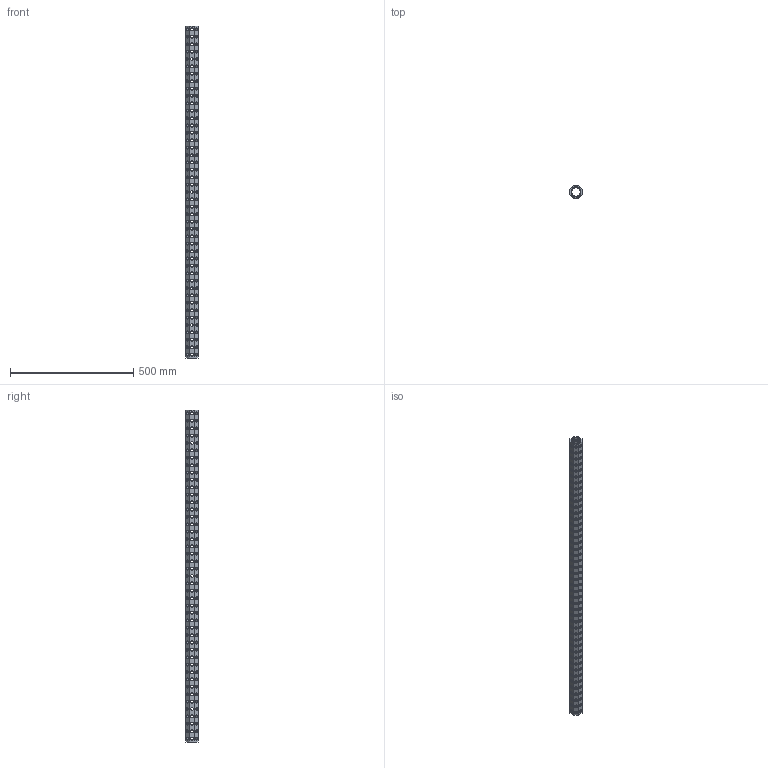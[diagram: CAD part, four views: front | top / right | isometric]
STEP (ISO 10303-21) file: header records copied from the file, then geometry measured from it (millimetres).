
FILE_DESCRIPTION(('CATIA V5 STEP Exchange'),'2;1');
FILE_NAME('U:\Room\唐宝山\EGT002\46-01-010274-01-EGT002-1348.stp','2021-08-24T01:22:46+00:00',('none'),('none'),'CATIA Version 5 Release 21 GA (IN-10)','CATIA V5 STEP AP203','none');
FILE_SCHEMA(('CONFIG_CONTROL_DESIGN'));
Products named in the file (1): 46-01-010274-01-EGT002-1348
Bounding box: 50 x 50 x 1348 mm (x, y, z)
Volume: 960355.2 mm3; surface area: 463587.1 mm2
Topology: 1 solids, 1 shells, 1884 faces, 5196 edges, 3224 vertices
Faces by surface type: cone 1080, cylinder 778, plane 26
Entity records: 81355 total; most frequent: CARTESIAN_POINT 36190, ORIENTED_EDGE 10392, DIRECTION 7096, EDGE_CURVE 5196, VERTEX_POINT 3224, AXIS2_PLACEMENT_3D 3193, EDGE_LOOP 2516, VECTOR 2020
